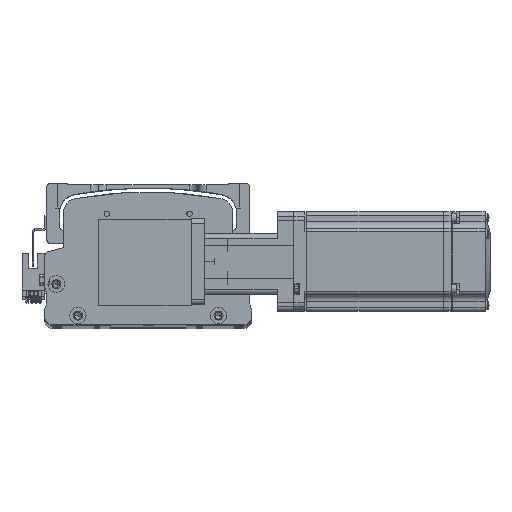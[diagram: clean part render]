
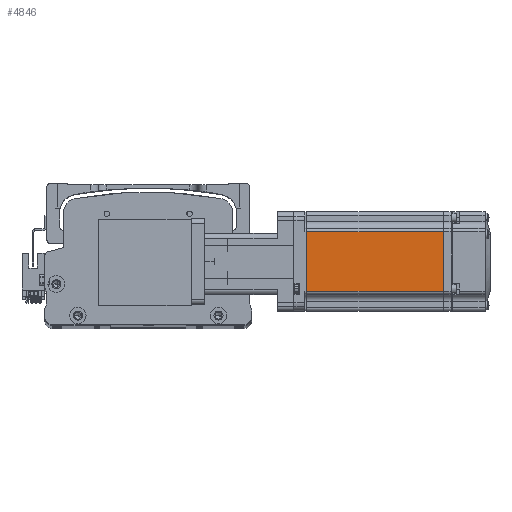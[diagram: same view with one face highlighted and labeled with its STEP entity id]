
A CAD part, top view. The second image highlights one B-rep face of the part: STEP entity #4846.
In plain terms, the highlighted planar face has unit normal (0, 0, 1) as drawn and (0, -1, 0) by its records, which use the part's own axes.
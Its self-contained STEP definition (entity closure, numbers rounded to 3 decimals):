
#2169 = CARTESIAN_POINT ( 'NONE',  ( -90.45, -30., 18. ) ) ;
#2782 = CARTESIAN_POINT ( 'NONE',  ( -6.5, -30., -25. ) ) ;
#4142 = ORIENTED_EDGE ( 'NONE', *, *, #30347, .T. ) ;
#4846 = ADVANCED_FACE ( 'NONE', ( #25609 ), #41272, .T. ) ;
#7072 = VERTEX_POINT ( 'NONE', #2169 ) ;
#7630 = DIRECTION ( 'NONE',  ( 0., 0., -1. ) ) ;
#8664 = LINE ( 'NONE', #19838, #60203 ) ;
#14325 = CARTESIAN_POINT ( 'NONE',  ( -7.75, -30., 18. ) ) ;
#15135 = LINE ( 'NONE', #62803, #39368 ) ;
#15456 = DIRECTION ( 'NONE',  ( 0., 0., -1. ) ) ;
#17233 = EDGE_LOOP ( 'NONE', ( #53276, #26429, #4142, #22718 ) ) ;
#19838 = CARTESIAN_POINT ( 'NONE',  ( -6.5, -30., -18. ) ) ;
#20823 = CARTESIAN_POINT ( 'NONE',  ( -90.45, -30., -18. ) ) ;
#22718 = ORIENTED_EDGE ( 'NONE', *, *, #38188, .F. ) ;
#25609 = FACE_OUTER_BOUND ( 'NONE', #17233, .T. ) ;
#26429 = ORIENTED_EDGE ( 'NONE', *, *, #50902, .T. ) ;
#27040 = VECTOR ( 'NONE', #49774, 1000. ) ;
#30347 = EDGE_CURVE ( 'NONE', #7072, #33348, #59102, .T. ) ;
#33348 = VERTEX_POINT ( 'NONE', #20823 ) ;
#35168 = CARTESIAN_POINT ( 'NONE',  ( -6.5, -30., 18. ) ) ;
#36342 = VECTOR ( 'NONE', #15456, 1000. ) ;
#36604 = DIRECTION ( 'NONE',  ( 0., -1., 0. ) ) ;
#38188 = EDGE_CURVE ( 'NONE', #44505, #33348, #8664, .T. ) ;
#38606 = DIRECTION ( 'NONE',  ( 0., 0., -1. ) ) ;
#39368 = VECTOR ( 'NONE', #38606, 1000. ) ;
#39920 = LINE ( 'NONE', #35168, #27040 ) ;
#41272 = PLANE ( 'NONE',  #60937 ) ;
#44409 = CARTESIAN_POINT ( 'NONE',  ( -90.45, -30., 0. ) ) ;
#44505 = VERTEX_POINT ( 'NONE', #56619 ) ;
#44957 = EDGE_CURVE ( 'NONE', #53658, #44505, #15135, .T. ) ;
#49774 = DIRECTION ( 'NONE',  ( -1., 0., 0. ) ) ;
#50902 = EDGE_CURVE ( 'NONE', #53658, #7072, #39920, .T. ) ;
#53276 = ORIENTED_EDGE ( 'NONE', *, *, #44957, .F. ) ;
#53658 = VERTEX_POINT ( 'NONE', #14325 ) ;
#53729 = DIRECTION ( 'NONE',  ( -1., 0., 0. ) ) ;
#56619 = CARTESIAN_POINT ( 'NONE',  ( -7.75, -30., -18. ) ) ;
#59102 = LINE ( 'NONE', #44409, #36342 ) ;
#60203 = VECTOR ( 'NONE', #53729, 1000. ) ;
#60937 = AXIS2_PLACEMENT_3D ( 'NONE', #2782, #36604, #7630 ) ;
#62803 = CARTESIAN_POINT ( 'NONE',  ( -7.75, -30., 0. ) ) ;
